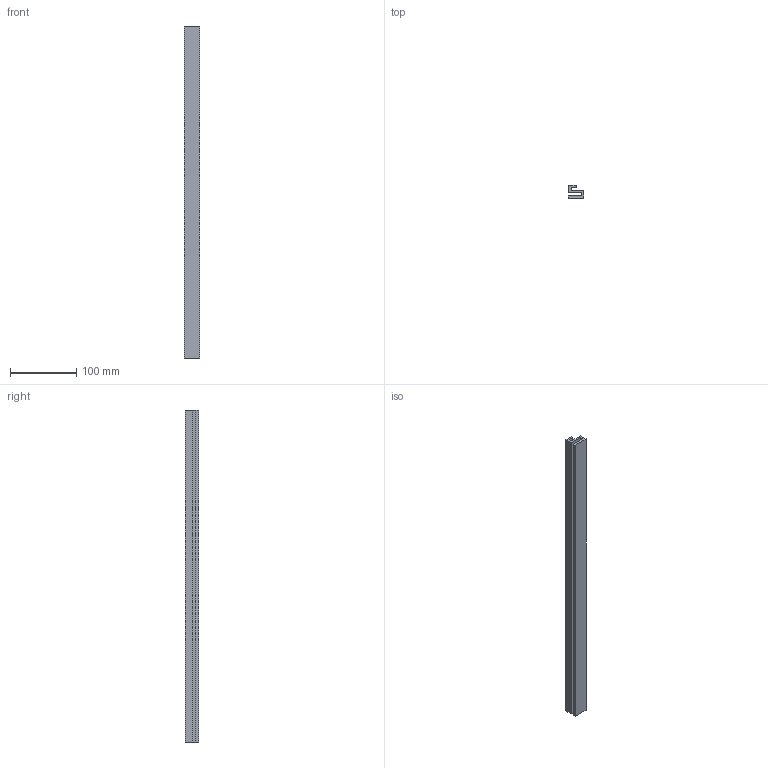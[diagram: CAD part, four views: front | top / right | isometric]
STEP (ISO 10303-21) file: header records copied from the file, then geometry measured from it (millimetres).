
FILE_DESCRIPTION (( 'STEP AP214' ), '1' );
FILE_NAME ('R2PG-CD.STEP', '2011-05-09T07:00:47', ( '.' ), ( '' ), 'SwSTEP 2.0', 'SolidWorks 2010', '' );
FILE_SCHEMA (( 'AUTOMOTIVE_DESIGN' ));
Length unit declared in the file: millimetre
Products named in the file (1): R2PG-CD
Bounding box: 23 x 20 x 500 mm (x, y, z)
Volume: 115892.7 mm3; surface area: 71249 mm2
Topology: 1 solids, 1 shells, 15 faces, 39 edges, 26 vertices
Faces by surface type: plane 14, cylinder 1
Entity records: 489 total; most frequent: CARTESIAN_POINT 81, ORIENTED_EDGE 78, DIRECTION 73, EDGE_CURVE 39, LINE 37, VECTOR 37, VERTEX_POINT 26, AXIS2_PLACEMENT_3D 18
